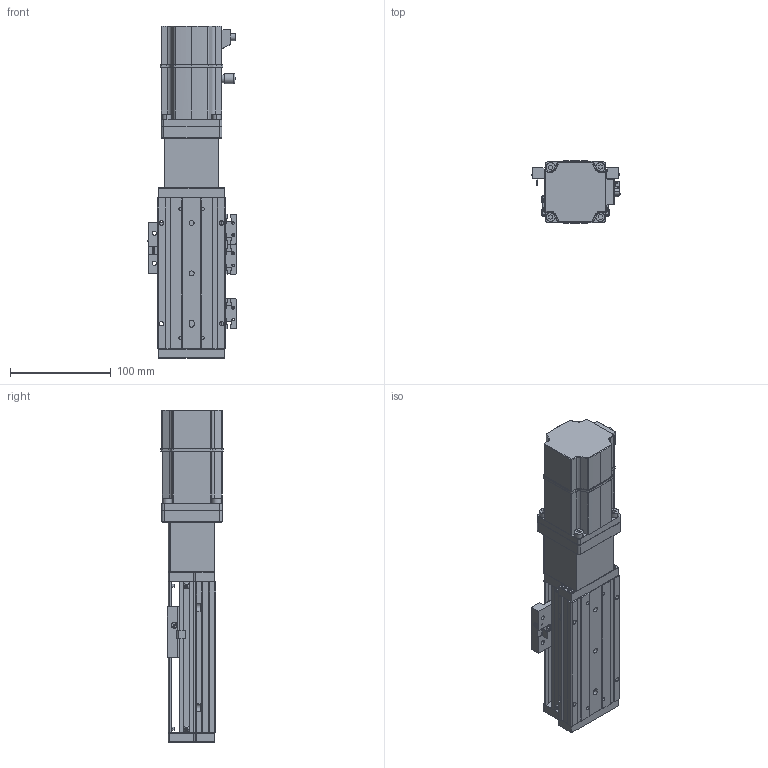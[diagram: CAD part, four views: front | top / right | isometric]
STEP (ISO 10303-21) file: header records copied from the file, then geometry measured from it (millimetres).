
FILE_DESCRIPTION (( 'STEP AP203' ), '1' );
FILE_NAME ('KTHA60-50-BC-M20-C4L.step', '2022-12-16T01:29:15', ( '微软用户' ), ( '微软中国' ), 'SwSTEP 2.0', 'SolidWorks 2020', '' );
FILE_SCHEMA (( 'CONFIG_CONTROL_DESIGN' ));
Length unit declared in the file: millimetre
Products named in the file (18): _X2_4E0983F1_X0_200W_1; GB¨uT 70.2-M3¡Á5_M3¡Á6; GBT 70.1-M3℅6; KTHA60-50-BC-M20-C4L; GBT 70.3-M3℅6; CTHA60-016; EE_SX911P_R; CTHA60-013; CTHA60-017; CTHA60-027; KTHA60-001_150; CTHA60-021; KTHA60-002; KTHA60-004; GBT 70.1-M4×16; CTHA60-006-3_M20B; KTHA60-005; GBT77-2000M3-3
Assembly tree (50 placements, depth 2):
  KTHA60-50-BC-M20-C4L
    KTHA60-001_150
    KTHA60-004
    KTHA60-005
    GB¨uT 70.2-M3¡Á5_M3¡Á6  x6
    GBT 70.3-M3℅6  x6
    EE_SX911P_R  x3
    CTHA60-017  x3
    CTHA60-021  x2
    GBT 70.1-M4×16  x8
    GBT77-2000M3-3  x6
    GBT 70.1-M3℅6  x6
    CTHA60-016  x2
    CTHA60-013
    CTHA60-027
    KTHA60-002
    CTHA60-006-3_M20B
    _X2_4E0983F1_X0_200W_1
Bounding box: 87.72 x 62.42 x 329.7 mm (x, y, z)
Volume: 811737.7 mm3; surface area: 177718.7 mm2
Topology: 53 solids, 53 shells, 2215 faces, 5203 edges, 3176 vertices
Faces by surface type: plane 1196, cylinder 564, cone 290, torus 80, bspline 69, sphere 16
Entity records: 37601 total; most frequent: CARTESIAN_POINT 7344, DIRECTION 5828, ORIENTED_EDGE 5610, EDGE_CURVE 2805, AXIS2_PLACEMENT_3D 2013, VECTOR 1802, LINE 1802, VERTEX_POINT 1743
